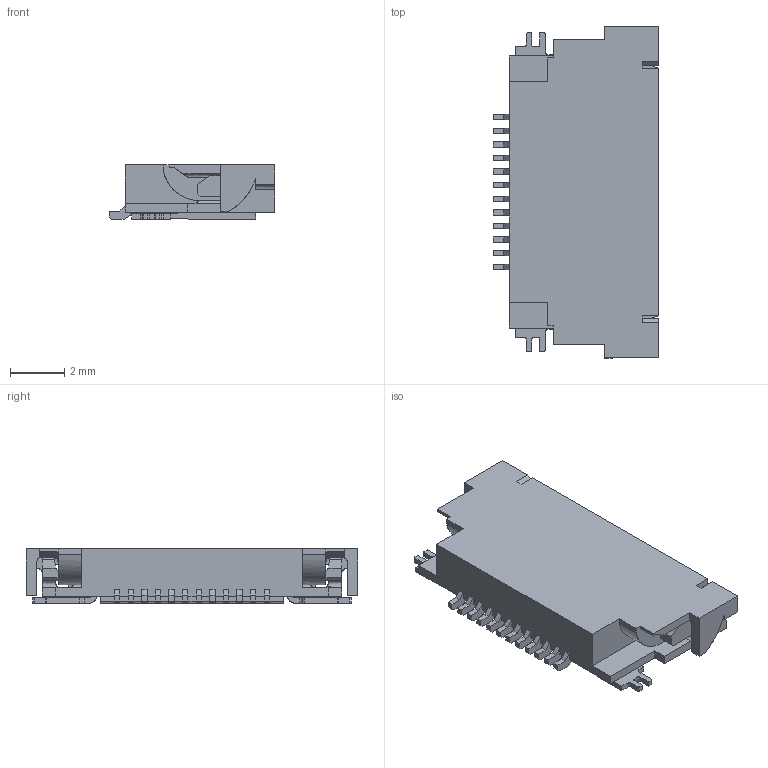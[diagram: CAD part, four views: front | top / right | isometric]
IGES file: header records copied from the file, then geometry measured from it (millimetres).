
Start section: SolidWorks IGES file using analytic representation for surfaces
Global section: file name: C:\Users\HISAKO.KAMIKAWA.FJ\Desktop\00_6240_XXX_006_016_026_XXX+\006240012006.IGS; native system: SolidWorks 2021; preprocessor: SolidWorks 2021; author: HISAKO.KAMIKAWA.FJ; date: 230406.140344; units: millimetre
Bounding box: 6.1 x 12.2 x 2 mm (x, y, z)
Surface area: 300 mm2 (no closed solid volume)
Topology: 0 solids, 0 shells, 337 faces, 2189 edges, 2189 vertices
Faces by surface type: bspline 337
